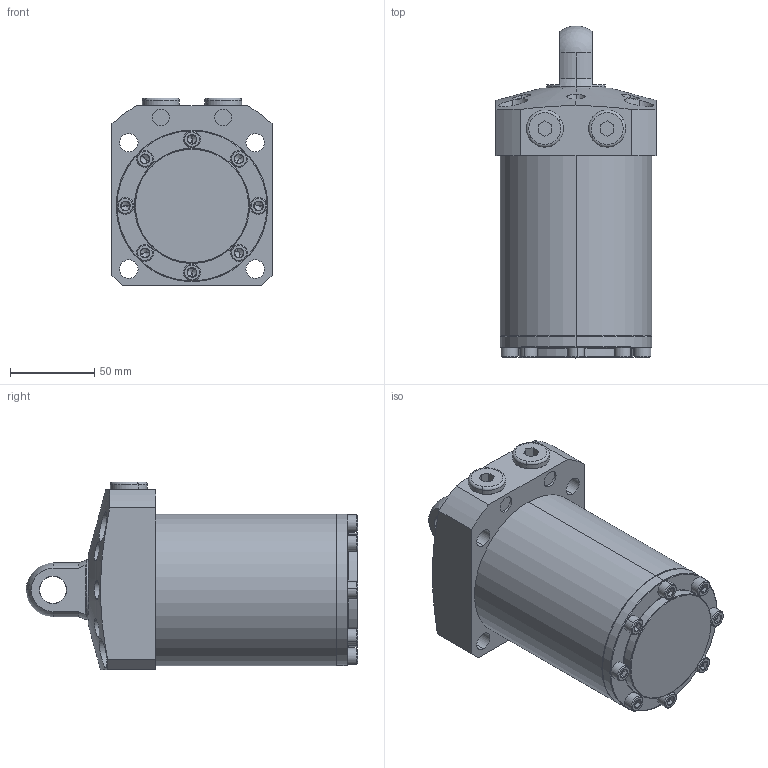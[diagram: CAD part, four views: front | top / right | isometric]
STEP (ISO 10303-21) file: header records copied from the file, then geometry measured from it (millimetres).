
FILE_DESCRIPTION (( 'STEP AP203' ), '1' );
FILE_NAME ('680900-CP-076.step', '2016-11-02T03:29:00', ( 'wxp' ), ( '' ), 'SwSTEP 2.0', 'SolidWorks 2011', '' );
FILE_SCHEMA (( 'CONFIG_CONTROL_DESIGN' ));
Length unit declared in the file: millimetre
Products named in the file (7): 680900-CP-076; 葩璃 680900-CA-15-13^680900-CP-076; 葩璃 68090-CA-76-6^680900-CP-076; 葩璃 68090-CA-76-5^680900-CP-076; 葩璃 68090-CA-76-4^680900-CP-076; 葩璃 68090-CA-76-3^680900-CP-076; 葩璃 68090-CA-76-1^680900-CP-076
Assembly tree (21 placements, depth 2):
  680900-CP-076
    葩璃 68090-CA-76-4^680900-CP-076  x8
    葩璃 68090-CA-76-5^680900-CP-076  x8
    葩璃 68090-CA-76-6^680900-CP-076  x2
    葩璃 680900-CA-15-13^680900-CP-076
    葩璃 68090-CA-76-3^680900-CP-076
    葩璃 68090-CA-76-1^680900-CP-076
Bounding box: 95 x 197 x 111.5 mm (x, y, z)
Volume: 1100339.8 mm3; surface area: 127217.9 mm2
Topology: 21 solids, 21 shells, 680 faces, 1277 edges, 659 vertices
Faces by surface type: plane 295, cone 216, cylinder 151, torus 16, sphere 2
Entity records: 8184 total; most frequent: CARTESIAN_POINT 2148, DIRECTION 1131, ORIENTED_EDGE 920, AXIS2_PLACEMENT_3D 475, EDGE_CURVE 460, VERTEX_POINT 276, EDGE_LOOP 270, CIRCLE 231
